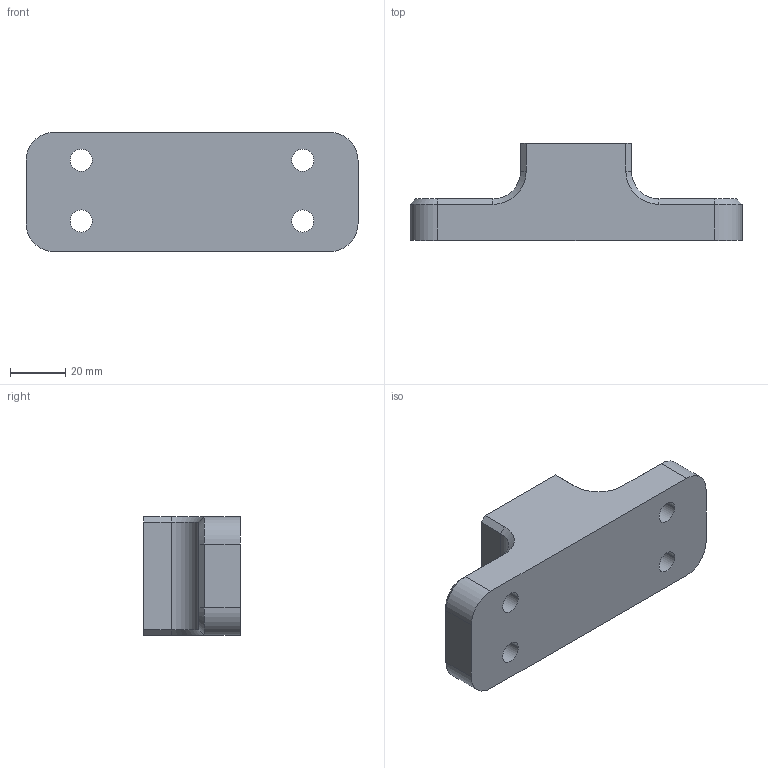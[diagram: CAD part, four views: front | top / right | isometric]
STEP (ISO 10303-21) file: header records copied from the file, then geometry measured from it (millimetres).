
FILE_DESCRIPTION((''),'2;1');
FILE_NAME('HOLDER_HOOK_B_MAR2024','2026-01-27T11:07:18',('GOS1PG2'),(''),'CREO PARAMETRIC BY PTC INC, 2025123','CREO PARAMETRIC BY PTC INC, 2025123','');
FILE_SCHEMA(('AP242_MANAGED_MODEL_BASED_3D_ENGINEERING_MIM_LF { 1 0 10303 442 1 1 4 }'));
Length unit declared in the file: millimetre
Products named in the file (1): HOLDER_HOOK_B_MAR2024
Bounding box: 120 x 35 x 43 mm (x, y, z)
Volume: 92020.2 mm3; surface area: 20820.7 mm2
Topology: 1 solids, 1 shells, 82 faces, 204 edges, 124 vertices
Faces by surface type: plane 44, cylinder 22, cone 16
Entity records: 11865 total; most frequent: CARTESIAN_POINT 6079, POLYLINE 2830, DIRECTION 438, ORIENTED_EDGE 408, PRESENTATION_STYLE_ASSIGNMENT 212, STYLED_ITEM 210, CURVE_STYLE 209, EDGE_CURVE 204
